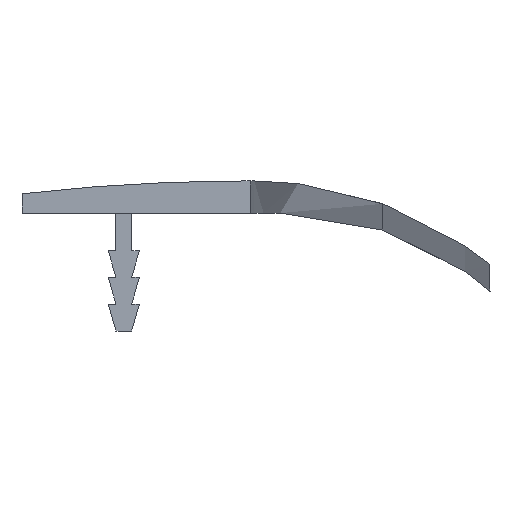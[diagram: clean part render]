
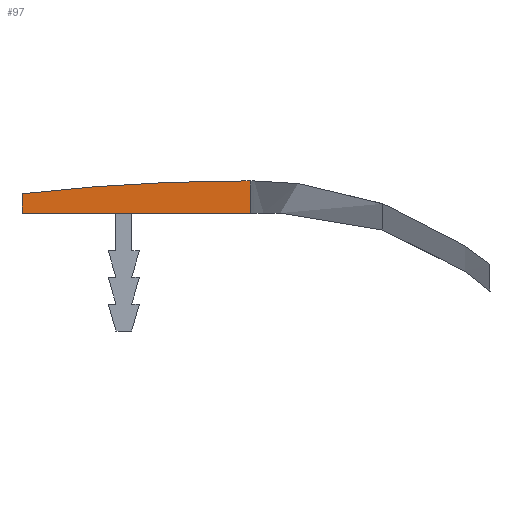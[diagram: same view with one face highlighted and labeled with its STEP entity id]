
A CAD part, left-side view. The second image highlights one B-rep face of the part: STEP entity #97.
In plain terms, the highlighted planar face has unit normal (-1, 0, 0).
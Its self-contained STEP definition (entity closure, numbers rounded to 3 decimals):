
#97 = ADVANCED_FACE( '', ( #201 ), #202, .F. );
#201 = FACE_OUTER_BOUND( '', #312, .T. );
#202 = PLANE( '', #313 );
#312 = EDGE_LOOP( '', ( #464, #465, #466, #467, #468 ) );
#313 = AXIS2_PLACEMENT_3D( '', #469, #470, #471 );
#464 = ORIENTED_EDGE( '', *, *, #734, .F. );
#465 = ORIENTED_EDGE( '', *, *, #701, .F. );
#466 = ORIENTED_EDGE( '', *, *, #694, .F. );
#467 = ORIENTED_EDGE( '', *, *, #735, .F. );
#468 = ORIENTED_EDGE( '', *, *, #736, .F. );
#469 = CARTESIAN_POINT( '', ( -497.5, -12.17, -32.05 ) );
#470 = DIRECTION( '', ( 1., 0., 0. ) );
#471 = DIRECTION( '', ( 0., 0., -1. ) );
#694 = EDGE_CURVE( '', #819, #820, #821, .T. );
#701 = EDGE_CURVE( '', #820, #832, #833, .T. );
#734 = EDGE_CURVE( '', #832, #885, #886, .T. );
#735 = EDGE_CURVE( '', #887, #819, #888, .T. );
#736 = EDGE_CURVE( '', #885, #887, #889, .T. );
#819 = VERTEX_POINT( '', #1034 );
#820 = VERTEX_POINT( '', #1035 );
#821 = CIRCLE( '', #1036, 176.85 );
#832 = VERTEX_POINT( '', #1051 );
#833 = LINE( '', #1052, #1053 );
#885 = VERTEX_POINT( '', #1162 );
#886 = LINE( '', #1163, #1164 );
#887 = VERTEX_POINT( '', #1165 );
#888 = LINE( '', #1166, #1167 );
#889 = LINE( '', #1168, #1169 );
#1034 = CARTESIAN_POINT( '', ( -497.5, 9.5, 1.808 ) );
#1035 = CARTESIAN_POINT( '', ( -497.5, -11., 3. ) );
#1036 = AXIS2_PLACEMENT_3D( '', #1308, #1309, #1310 );
#1051 = CARTESIAN_POINT( '', ( -497.5, -11.8, 3. ) );
#1052 = CARTESIAN_POINT( '', ( -497.5, -11., 3. ) );
#1053 = VECTOR( '', #1318, 1000. );
#1162 = CARTESIAN_POINT( '', ( -497.5, -11.8, 0. ) );
#1163 = CARTESIAN_POINT( '', ( -497.5, -11.8, -32.05 ) );
#1164 = VECTOR( '', #1344, 1000. );
#1165 = CARTESIAN_POINT( '', ( -497.5, 9.5, 0. ) );
#1166 = CARTESIAN_POINT( '', ( -497.5, 9.5, 0. ) );
#1167 = VECTOR( '', #1345, 1000. );
#1168 = CARTESIAN_POINT( '', ( -497.5, -14.59, 0. ) );
#1169 = VECTOR( '', #1346, 1000. );
#1308 = CARTESIAN_POINT( '', ( -497.5, -11., -173.85 ) );
#1309 = DIRECTION( '', ( 1., 0., 0. ) );
#1310 = DIRECTION( '', ( 0., 0., -1. ) );
#1318 = DIRECTION( '', ( 0., -1., 0. ) );
#1344 = DIRECTION( '', ( 0., 0., -1. ) );
#1345 = DIRECTION( '', ( 0., 0., 1. ) );
#1346 = DIRECTION( '', ( 0., 1., 0. ) );
